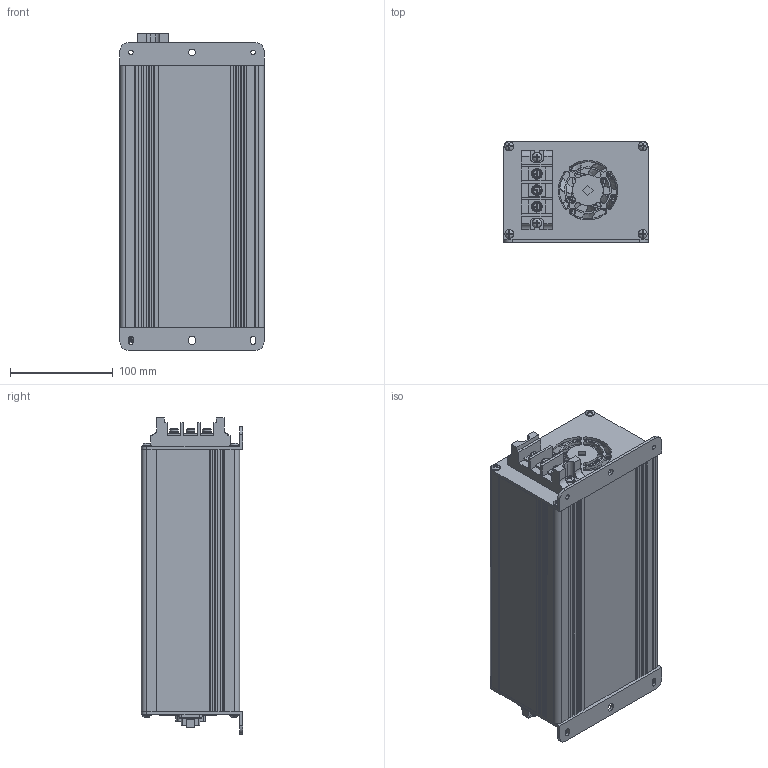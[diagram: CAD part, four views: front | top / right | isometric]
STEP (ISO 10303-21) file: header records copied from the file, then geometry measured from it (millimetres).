
FILE_DESCRIPTION(/* description */ ('','CAx-IF Rec.Pracs.---Representation and Presentation of Product Manufacturing Information (PMI)---4.0---2014-10-13'),/* implementation_level */ '2;1');
FILE_NAME(/* name */ 'H:\04_배터리_전기종\고부하용 배터리 케이스_3D\[NEW] DHCOM 설계자용\DH255COM.stp',/* time_stamp */ '2022-06-16T14:41:54+09:00',/* author */ ('jjang'),/* organization */ (''),/* preprocessor_version */ 'ST-DEVELOPER v18.1',/* originating_system */ 'Autodesk Inventor 2021',/* authorisation */ '');
FILE_SCHEMA (('AP242_MANAGED_MODEL_BASED_3D_ENGINEERING_MIM_LF { 1 0 10303 442 1 1 4 }'));
Products named in the file (1): DH255COM_Shrinkwrap_1
Bounding box: 140 x 98.5 x 307.5 mm (x, y, z)
Volume: 529186.8 mm3; surface area: 365644.6 mm2
Topology: 3 solids, 3 shells, 2625 faces, 8369 edges, 6007 vertices
Faces by surface type: plane 1466, cylinder 658, bspline 392, torus 81, sphere 17, cone 11
Full cylindrical faces by diameter (mm): 0.457 x2, 0.61 x27, 0.635 x9, 0.9 x2, 1.397 x9, 2.286 x9, 2.4 x2, 2.8 x6, 2.9 x2, 3.048 x4, 3.8 x10, 3.9 x2, 4 x3, 4.3 x4, 4.4 x2, 4.5 x10, 5 x8, 5.5 x6, 6 x3, 6.082 x1, 6.5 x1, 8 x1, 8.584 x3, 8.6 x3, 8.8 x8, 9.2 x2, 10 x1, 25.4 x1, 55.4 x1
Entity records: 111247 total; most frequent: CARTESIAN_POINT 36827, ORIENTED_EDGE 16708, DIRECTION 12828, EDGE_CURVE 8354, VERTEX_POINT 6006, LINE 4410, VECTOR 4410, AXIS2_PLACEMENT_3D 4209
